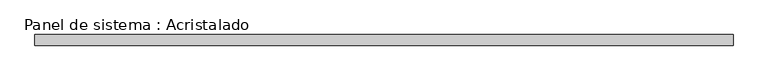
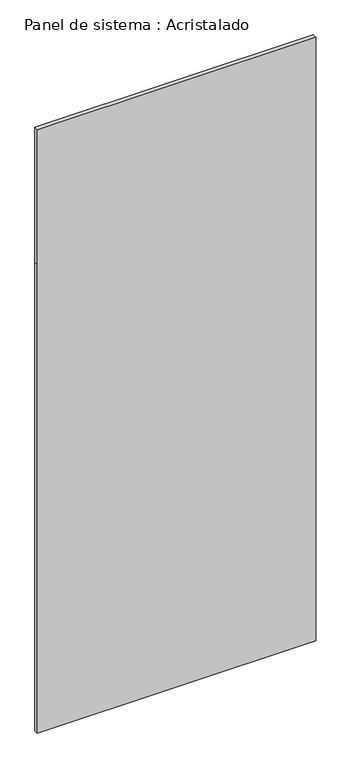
"""IFC4 building model written with IfcOpenShell, lengths in millimetres: plate geometry, Panel de sistema : Acristalado."""

from ifc_helpers import new_model, si_unit, frame, origin, place, context, project, spatial, polyline, outline, extrude, source, transform, mapped, element, save


def panel_de_sistema_acristalado_e934f982(model_context):
    return source(origin(), model_context, "Body", "SweptSolid", [
        extrude(outline(polyline([(0.0, -632.5), (0.0, 632.5), (2250.0, 632.5), (2900.0, 632.5), (2900.0, -632.5), (2250.0, -632.5), (0.0, -632.5)])), frame((0.0, -10.0, 0.0), z_axis=(0.0, 1.0, 0.0), x_axis=(0.0, 0.0, 1.0)), (0.0, 0.0, 1.0), 20.0),
    ])


if __name__ == "__main__":
    model = new_model("IFC4")
    model_context = context("Model", 3, world=origin())
    ifc_project = project(units=[si_unit("LENGTHUNIT", "METRE", prefix="MILLI")], contexts=[model_context])
    site = spatial("IfcSite", under=ifc_project)
    building = spatial("IfcBuilding", under=site)
    placement = place(None, origin())
    panel_de_sistema_acristalado_shape = panel_de_sistema_acristalado_e934f982(model_context)
    element("IfcPlate", 1, ObjectType="Panel de sistema : Acristalado", at=placement, inside=building, context=model_context, shape_type="MappedRepresentation", body=[
        mapped(panel_de_sistema_acristalado_shape, transform((0.0, 0.0, 0.0), x_axis=(1.0, 0.0, 0.0), y_axis=(0.0, 1.0, 0.0), z_axis=(0.0, 0.0, 1.0))),
    ])
    save(model, "model.ifc")
